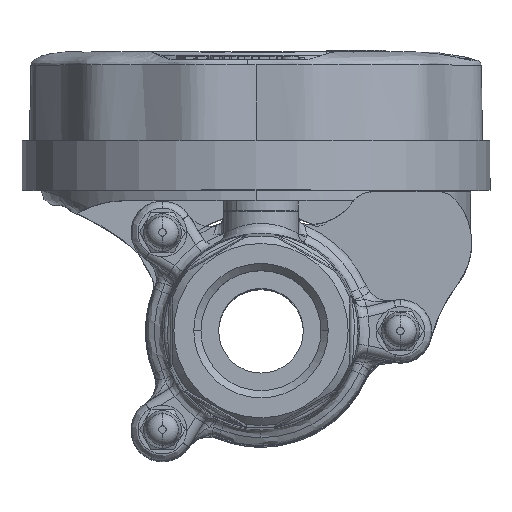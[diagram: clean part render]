
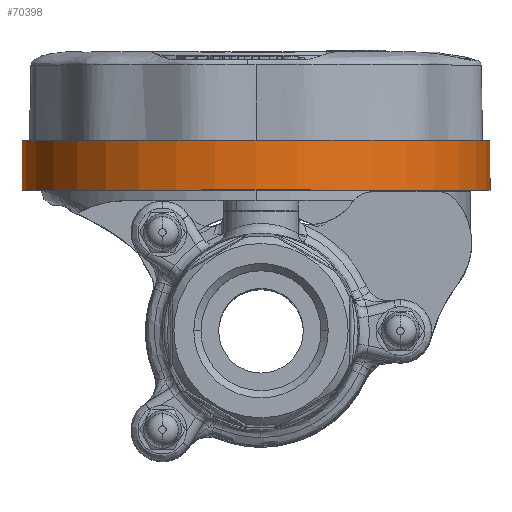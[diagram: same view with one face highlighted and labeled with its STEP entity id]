
A CAD part, top view. The second image highlights one B-rep face of the part: STEP entity #70398.
In plain terms, the highlighted cylindrical face has radius 47 mm (diameter 94 mm), a partial arc.
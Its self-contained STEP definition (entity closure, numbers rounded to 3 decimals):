
#81 = AXIS2_PLACEMENT_3D ( 'NONE', #3055, #41467, #8676 ) ;
#803 = VERTEX_POINT ( 'NONE', #58842 ) ;
#1271 = CARTESIAN_POINT ( 'NONE',  ( 46., 38.3, 9.1 ) ) ;
#1345 = VECTOR ( 'NONE', #63640, 1000. ) ;
#1350 = LINE ( 'NONE', #63410, #1345 ) ;
#1880 = VERTEX_POINT ( 'NONE', #69421 ) ;
#1953 = EDGE_CURVE ( 'NONE', #1880, #803, #6242, .T. ) ;
#2158 = EDGE_CURVE ( 'NONE', #21053, #59560, #1350, .T. ) ;
#3055 = CARTESIAN_POINT ( 'NONE',  ( -1., 38.3, 9.1 ) ) ;
#3273 = CYLINDRICAL_SURFACE ( 'NONE', #49136, 47. ) ;
#4874 = VECTOR ( 'NONE', #69104, 1000. ) ;
#5012 = CIRCLE ( 'NONE', #81, 47. ) ;
#6242 = LINE ( 'NONE', #1271, #4874 ) ;
#7047 = CARTESIAN_POINT ( 'NONE',  ( -48., 38.3, 9.1 ) ) ;
#8017 = AXIS2_PLACEMENT_3D ( 'NONE', #55097, #22316, #60672 ) ;
#8676 = DIRECTION ( 'NONE',  ( -1., 0., 0. ) ) ;
#12529 = EDGE_LOOP ( 'NONE', ( #69188, #70134, #70695, #56166 ) ) ;
#21053 = VERTEX_POINT ( 'NONE', #7047 ) ;
#22316 = DIRECTION ( 'NONE',  ( 0., -1., 0. ) ) ;
#27492 = CARTESIAN_POINT ( 'NONE',  ( -48., 28.3, 9.1 ) ) ;
#41467 = DIRECTION ( 'NONE',  ( 0., -1., 0. ) ) ;
#44682 = DIRECTION ( 'NONE',  ( -1., 0., 0. ) ) ;
#49136 = AXIS2_PLACEMENT_3D ( 'NONE', #55595, #61171, #44682 ) ;
#52249 = FACE_OUTER_BOUND ( 'NONE', #12529, .T. ) ;
#55097 = CARTESIAN_POINT ( 'NONE',  ( -1., 28.3, 9.1 ) ) ;
#55595 = CARTESIAN_POINT ( 'NONE',  ( -1., 38.3, 9.1 ) ) ;
#56166 = ORIENTED_EDGE ( 'NONE', *, *, #61530, .F. ) ;
#58842 = CARTESIAN_POINT ( 'NONE',  ( 46., 28.3, 9.1 ) ) ;
#59560 = VERTEX_POINT ( 'NONE', #27492 ) ;
#60672 = DIRECTION ( 'NONE',  ( -1., 0., 0. ) ) ;
#61171 = DIRECTION ( 'NONE',  ( 0., -1., 0. ) ) ;
#61530 = EDGE_CURVE ( 'NONE', #803, #59560, #66392, .T. ) ;
#62077 = EDGE_CURVE ( 'NONE', #1880, #21053, #5012, .T. ) ;
#63410 = CARTESIAN_POINT ( 'NONE',  ( -48., 38.3, 9.1 ) ) ;
#63640 = DIRECTION ( 'NONE',  ( 0., -1., 0. ) ) ;
#66392 = CIRCLE ( 'NONE', #8017, 47. ) ;
#69104 = DIRECTION ( 'NONE',  ( 0., -1., 0. ) ) ;
#69188 = ORIENTED_EDGE ( 'NONE', *, *, #1953, .F. ) ;
#69421 = CARTESIAN_POINT ( 'NONE',  ( 46., 38.3, 9.1 ) ) ;
#70134 = ORIENTED_EDGE ( 'NONE', *, *, #62077, .T. ) ;
#70398 = ADVANCED_FACE ( 'NONE', ( #52249 ), #3273, .T. ) ;
#70695 = ORIENTED_EDGE ( 'NONE', *, *, #2158, .T. ) ;
